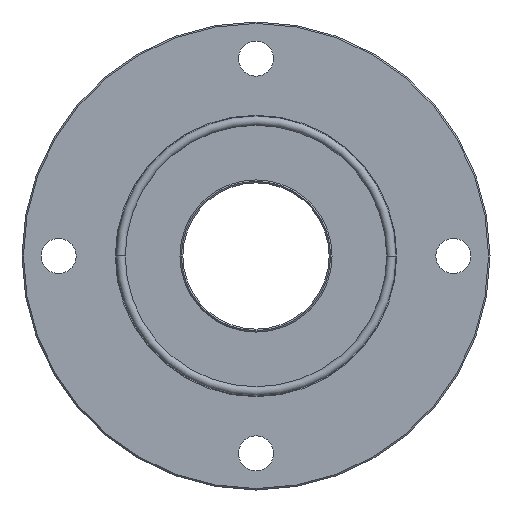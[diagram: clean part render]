
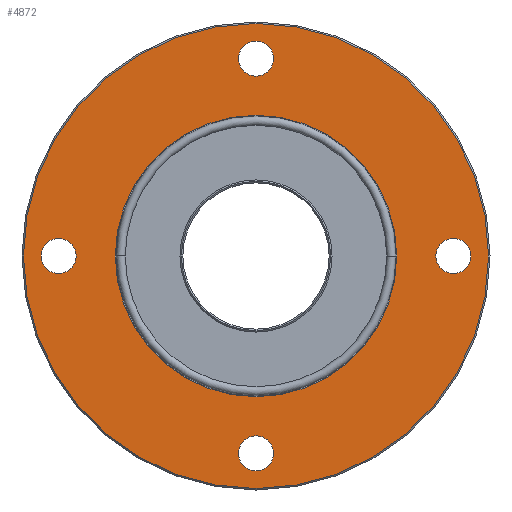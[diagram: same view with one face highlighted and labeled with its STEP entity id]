
A CAD part, left-side view. The second image highlights one B-rep face of the part: STEP entity #4872.
In plain terms, the highlighted planar face has unit normal (-1, 0, 0).
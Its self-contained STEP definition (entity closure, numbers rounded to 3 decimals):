
#3195 = VERTEX_POINT ( 'NONE', #19547 ) ;
#3197 = EDGE_CURVE ( 'NONE', #3195, #3198, #19546, .T. ) ;
#3198 = VERTEX_POINT ( 'NONE', #19541 ) ;
#3263 = VERTEX_POINT ( 'NONE', #19725 ) ;
#3265 = EDGE_CURVE ( 'NONE', #3263, #3266, #19787, .T. ) ;
#3266 = VERTEX_POINT ( 'NONE', #19782 ) ;
#3304 = VERTEX_POINT ( 'NONE', #19824 ) ;
#3306 = EDGE_CURVE ( 'NONE', #3304, #3307, #19823, .T. ) ;
#3307 = VERTEX_POINT ( 'NONE', #19818 ) ;
#3332 = EDGE_CURVE ( 'NONE', #3373, #3333, #19876, .T. ) ;
#3333 = VERTEX_POINT ( 'NONE', #19930 ) ;
#3343 = VERTEX_POINT ( 'NONE', #19912 ) ;
#3346 = EDGE_CURVE ( 'NONE', #3343, #3347, #19907, .T. ) ;
#3347 = VERTEX_POINT ( 'NONE', #19902 ) ;
#3373 = VERTEX_POINT ( 'NONE', #19963 ) ;
#4799 = ORIENTED_EDGE ( 'NONE', *, *, #4800, .T. ) ;
#4800 = EDGE_CURVE ( 'NONE', #5475, #5474, #41083, .T. ) ;
#4801 = ORIENTED_EDGE ( 'NONE', *, *, #5473, .T. ) ;
#4802 = EDGE_LOOP ( 'NONE', ( #4803, #4805 ) ) ;
#4803 = ORIENTED_EDGE ( 'NONE', *, *, #4804, .F. ) ;
#4804 = EDGE_CURVE ( 'NONE', #3266, #3263, #41078, .T. ) ;
#4805 = ORIENTED_EDGE ( 'NONE', *, *, #3265, .F. ) ;
#4842 = EDGE_CURVE ( 'NONE', #3347, #3343, #41151, .T. ) ;
#4843 = ORIENTED_EDGE ( 'NONE', *, *, #3346, .F. ) ;
#4855 = EDGE_LOOP ( 'NONE', ( #4856, #4858 ) ) ;
#4856 = ORIENTED_EDGE ( 'NONE', *, *, #4857, .F. ) ;
#4857 = EDGE_CURVE ( 'NONE', #3307, #3304, #41193, .T. ) ;
#4858 = ORIENTED_EDGE ( 'NONE', *, *, #3306, .F. ) ;
#4859 = EDGE_LOOP ( 'NONE', ( #4860, #4862 ) ) ;
#4860 = ORIENTED_EDGE ( 'NONE', *, *, #4861, .F. ) ;
#4861 = EDGE_CURVE ( 'NONE', #3198, #3195, #41189, .T. ) ;
#4862 = ORIENTED_EDGE ( 'NONE', *, *, #3197, .F. ) ;
#4863 = EDGE_LOOP ( 'NONE', ( #4864, #4866 ) ) ;
#4864 = ORIENTED_EDGE ( 'NONE', *, *, #4865, .F. ) ;
#4865 = EDGE_CURVE ( 'NONE', #3333, #3373, #41184, .T. ) ;
#4866 = ORIENTED_EDGE ( 'NONE', *, *, #3332, .F. ) ;
#4867 = EDGE_LOOP ( 'NONE', ( #4868, #4843 ) ) ;
#4868 = ORIENTED_EDGE ( 'NONE', *, *, #4842, .F. ) ;
#4872 = ADVANCED_FACE ( 'NONE', ( #41174, #41173, #41172, #41171, #41170, #41169 ), #41241, .T. ) ;
#4873 = EDGE_LOOP ( 'NONE', ( #4799, #4801 ) ) ;
#5473 = EDGE_CURVE ( 'NONE', #5474, #5475, #43527, .T. ) ;
#5474 = VERTEX_POINT ( 'NONE', #43528 ) ;
#5475 = VERTEX_POINT ( 'NONE', #43585 ) ;
#19541 = CARTESIAN_POINT ( 'NONE',  ( 0., -73.5, 0. ) ) ;
#19542 = DIRECTION ( 'NONE',  ( 0., 1., 0. ) ) ;
#19543 = DIRECTION ( 'NONE',  ( -1., 0., 0. ) ) ;
#19544 = CARTESIAN_POINT ( 'NONE',  ( 0., -67.5, 0. ) ) ;
#19545 = AXIS2_PLACEMENT_3D ( 'NONE', #19544, #19543, #19542 ) ;
#19546 = CIRCLE ( 'NONE', #19545, 6. ) ;
#19547 = CARTESIAN_POINT ( 'NONE',  ( 0., -61.5, 0. ) ) ;
#19725 = CARTESIAN_POINT ( 'NONE',  ( 0., 48.1, 0. ) ) ;
#19782 = CARTESIAN_POINT ( 'NONE',  ( 0., -48.1, 0. ) ) ;
#19783 = DIRECTION ( 'NONE',  ( 0., -1., 0. ) ) ;
#19784 = DIRECTION ( 'NONE',  ( -1., 0., 0. ) ) ;
#19785 = CARTESIAN_POINT ( 'NONE',  ( 0., 0., 0. ) ) ;
#19786 = AXIS2_PLACEMENT_3D ( 'NONE', #19785, #19784, #19783 ) ;
#19787 = CIRCLE ( 'NONE', #19786, 48.1 ) ;
#19818 = CARTESIAN_POINT ( 'NONE',  ( 0., -6., 67.5 ) ) ;
#19819 = DIRECTION ( 'NONE',  ( 0., 0., -1. ) ) ;
#19820 = DIRECTION ( 'NONE',  ( -1., 0., 0. ) ) ;
#19821 = CARTESIAN_POINT ( 'NONE',  ( 0., 0., 67.5 ) ) ;
#19822 = AXIS2_PLACEMENT_3D ( 'NONE', #19821, #19820, #19819 ) ;
#19823 = CIRCLE ( 'NONE', #19822, 6. ) ;
#19824 = CARTESIAN_POINT ( 'NONE',  ( 0., 6., 67.5 ) ) ;
#19872 = DIRECTION ( 'NONE',  ( 0., 0., 1. ) ) ;
#19873 = DIRECTION ( 'NONE',  ( -1., 0., 0. ) ) ;
#19874 = CARTESIAN_POINT ( 'NONE',  ( 0., 0., -67.5 ) ) ;
#19875 = AXIS2_PLACEMENT_3D ( 'NONE', #19874, #19873, #19872 ) ;
#19876 = CIRCLE ( 'NONE', #19875, 6. ) ;
#19902 = CARTESIAN_POINT ( 'NONE',  ( 0., 61.5, 0. ) ) ;
#19903 = DIRECTION ( 'NONE',  ( 0., -1., 0. ) ) ;
#19904 = DIRECTION ( 'NONE',  ( -1., 0., 0. ) ) ;
#19905 = CARTESIAN_POINT ( 'NONE',  ( 0., 67.5, 0. ) ) ;
#19906 = AXIS2_PLACEMENT_3D ( 'NONE', #19905, #19904, #19903 ) ;
#19907 = CIRCLE ( 'NONE', #19906, 6. ) ;
#19912 = CARTESIAN_POINT ( 'NONE',  ( 0., 73.5, 0. ) ) ;
#19930 = CARTESIAN_POINT ( 'NONE',  ( 0., -6., -67.5 ) ) ;
#19963 = CARTESIAN_POINT ( 'NONE',  ( 0., 6., -67.5 ) ) ;
#41074 = DIRECTION ( 'NONE',  ( 0., -1., 0. ) ) ;
#41075 = DIRECTION ( 'NONE',  ( -1., 0., 0. ) ) ;
#41076 = CARTESIAN_POINT ( 'NONE',  ( 0., 0., 0. ) ) ;
#41077 = AXIS2_PLACEMENT_3D ( 'NONE', #41076, #41075, #41074 ) ;
#41078 = CIRCLE ( 'NONE', #41077, 48.1 ) ;
#41079 = DIRECTION ( 'NONE',  ( 0., -1., 0. ) ) ;
#41080 = DIRECTION ( 'NONE',  ( -1., 0., 0. ) ) ;
#41081 = CARTESIAN_POINT ( 'NONE',  ( 0., 0., 0. ) ) ;
#41082 = AXIS2_PLACEMENT_3D ( 'NONE', #41081, #41080, #41079 ) ;
#41083 = CIRCLE ( 'NONE', #41082, 79.5 ) ;
#41147 = DIRECTION ( 'NONE',  ( 0., -1., 0. ) ) ;
#41148 = DIRECTION ( 'NONE',  ( -1., 0., 0. ) ) ;
#41149 = CARTESIAN_POINT ( 'NONE',  ( 0., 67.5, 0. ) ) ;
#41150 = AXIS2_PLACEMENT_3D ( 'NONE', #41149, #41148, #41147 ) ;
#41151 = CIRCLE ( 'NONE', #41150, 6. ) ;
#41169 = FACE_BOUND ( 'NONE', #4867, .T. ) ;
#41170 = FACE_BOUND ( 'NONE', #4863, .T. ) ;
#41171 = FACE_BOUND ( 'NONE', #4859, .T. ) ;
#41172 = FACE_BOUND ( 'NONE', #4855, .T. ) ;
#41173 = FACE_BOUND ( 'NONE', #4802, .T. ) ;
#41174 = FACE_OUTER_BOUND ( 'NONE', #4873, .T. ) ;
#41180 = DIRECTION ( 'NONE',  ( 0., 0., 1. ) ) ;
#41181 = DIRECTION ( 'NONE',  ( -1., 0., 0. ) ) ;
#41182 = CARTESIAN_POINT ( 'NONE',  ( 0., 0., -67.5 ) ) ;
#41183 = AXIS2_PLACEMENT_3D ( 'NONE', #41182, #41181, #41180 ) ;
#41184 = CIRCLE ( 'NONE', #41183, 6. ) ;
#41185 = DIRECTION ( 'NONE',  ( 0., 1., 0. ) ) ;
#41186 = DIRECTION ( 'NONE',  ( -1., 0., 0. ) ) ;
#41187 = CARTESIAN_POINT ( 'NONE',  ( 0., -67.5, 0. ) ) ;
#41188 = AXIS2_PLACEMENT_3D ( 'NONE', #41187, #41186, #41185 ) ;
#41189 = CIRCLE ( 'NONE', #41188, 6. ) ;
#41190 = DIRECTION ( 'NONE',  ( 0., 0., -1. ) ) ;
#41191 = DIRECTION ( 'NONE',  ( -1., 0., 0. ) ) ;
#41192 = AXIS2_PLACEMENT_3D ( 'NONE', #41198, #41191, #41190 ) ;
#41193 = CIRCLE ( 'NONE', #41192, 6. ) ;
#41198 = CARTESIAN_POINT ( 'NONE',  ( 0., 0., 67.5 ) ) ;
#41237 = DIRECTION ( 'NONE',  ( 0., -1., 0. ) ) ;
#41238 = DIRECTION ( 'NONE',  ( -1., 0., 0. ) ) ;
#41239 = CARTESIAN_POINT ( 'NONE',  ( 0., 0., 0. ) ) ;
#41240 = AXIS2_PLACEMENT_3D ( 'NONE', #41239, #41238, #41237 ) ;
#41241 = PLANE ( 'NONE',  #41240 ) ;
#43523 = DIRECTION ( 'NONE',  ( 0., -1., 0. ) ) ;
#43524 = DIRECTION ( 'NONE',  ( -1., 0., 0. ) ) ;
#43525 = CARTESIAN_POINT ( 'NONE',  ( 0., 0., 0. ) ) ;
#43526 = AXIS2_PLACEMENT_3D ( 'NONE', #43525, #43524, #43523 ) ;
#43527 = CIRCLE ( 'NONE', #43526, 79.5 ) ;
#43528 = CARTESIAN_POINT ( 'NONE',  ( 0., -79.5, 0. ) ) ;
#43585 = CARTESIAN_POINT ( 'NONE',  ( 0., 79.5, 0. ) ) ;
